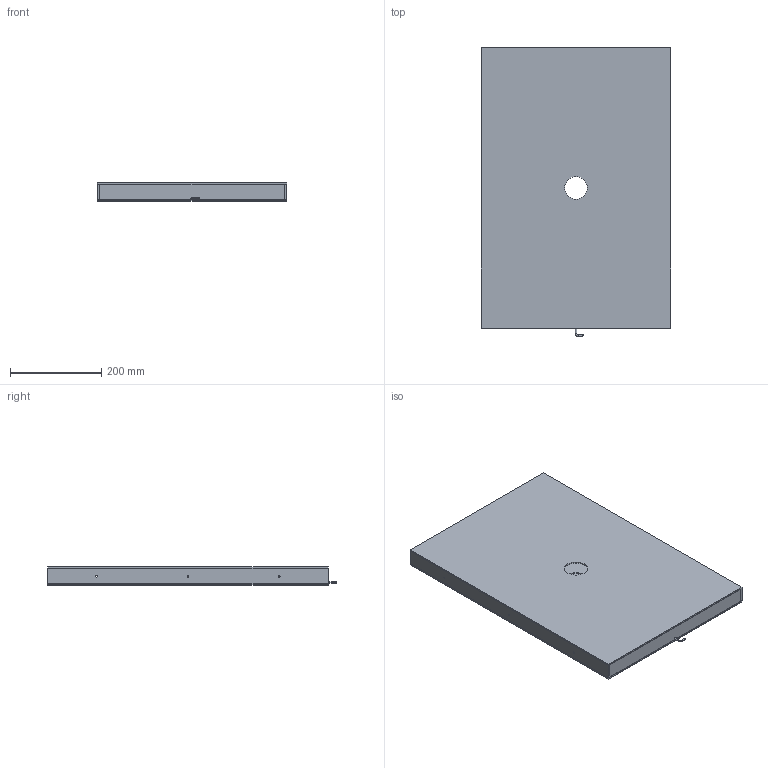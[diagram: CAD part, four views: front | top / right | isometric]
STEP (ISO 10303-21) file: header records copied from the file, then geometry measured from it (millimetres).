
FILE_DESCRIPTION (( 'STEP AP203' ), '1' );
FILE_NAME ('CRT-KFLD600400Y50-¼òÒ×3DÍ¼.STEP', '2021-11-24T03:12:48', ( 'Admin' ), ( '' ), 'SwSTEP 2.0', 'SolidWorks 2018', '' );
FILE_SCHEMA (( 'CONFIG_CONTROL_DESIGN' ));
Length unit declared in the file: millimetre
Products named in the file (1): CRT-KFLD600400Y50-潠眢3D芞
Bounding box: 414 x 631.75 x 40 mm (x, y, z)
Surface area: 1327756 mm2 (no closed solid volume)
Topology: 0 solids, 8 shells, 63 faces, 185 edges, 130 vertices
Faces by surface type: plane 37, cylinder 24, bspline 2
Entity records: 2212 total; most frequent: CARTESIAN_POINT 465, DIRECTION 350, ORIENTED_EDGE 294, EDGE_CURVE 185, VECTOR 136, LINE 136, VERTEX_POINT 130, AXIS2_PLACEMENT_3D 107
